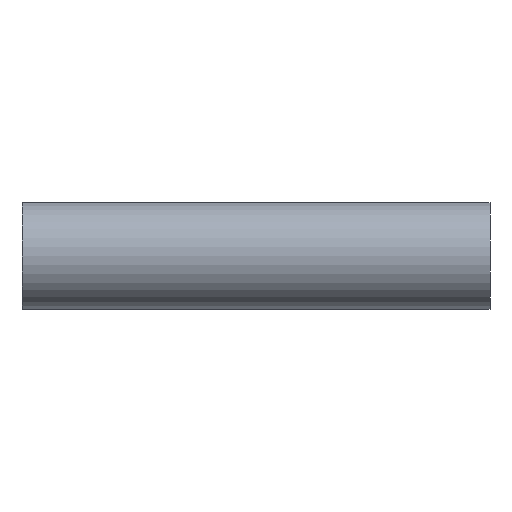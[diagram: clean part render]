
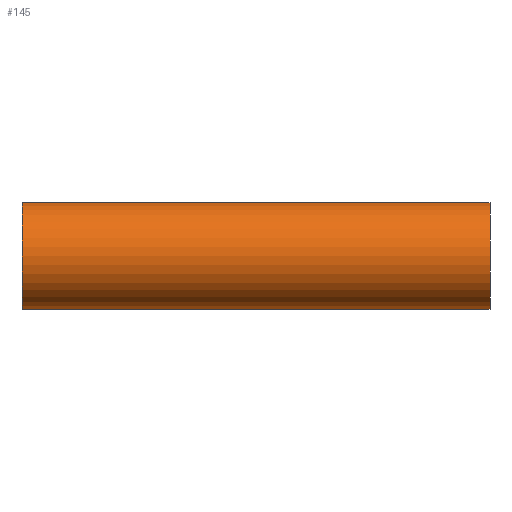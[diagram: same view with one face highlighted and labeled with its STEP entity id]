
A CAD part, front view. The second image highlights one B-rep face of the part: STEP entity #145.
In plain terms, the highlighted cylindrical face has radius 25.4 mm (diameter 50.8 mm), a partial arc.
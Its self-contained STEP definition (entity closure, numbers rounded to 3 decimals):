
#3 = ORIENTED_EDGE ( 'NONE', *, *, #259, .T. ) ;
#15 = DIRECTION ( 'NONE',  ( 0., 0., -1. ) ) ;
#62 = CARTESIAN_POINT ( 'NONE',  ( 0., 0., 25.4 ) ) ;
#75 = EDGE_CURVE ( 'NONE', #120, #280, #189, .T. ) ;
#80 = CARTESIAN_POINT ( 'NONE',  ( -41.4, 0., 25.4 ) ) ;
#90 = VECTOR ( 'NONE', #122, 1000. ) ;
#106 = CARTESIAN_POINT ( 'NONE',  ( -41.4, 0., 0. ) ) ;
#107 = AXIS2_PLACEMENT_3D ( 'NONE', #364, #385, #197 ) ;
#109 = DIRECTION ( 'NONE',  ( 1., 0., 0. ) ) ;
#112 = LINE ( 'NONE', #273, #411 ) ;
#120 = VERTEX_POINT ( 'NONE', #80 ) ;
#122 = DIRECTION ( 'NONE',  ( 1., 0., 0. ) ) ;
#123 = CARTESIAN_POINT ( 'NONE',  ( -41.4, 0., -25.4 ) ) ;
#127 = ORIENTED_EDGE ( 'NONE', *, *, #391, .F. ) ;
#139 = EDGE_CURVE ( 'NONE', #261, #199, #112, .T. ) ;
#140 = AXIS2_PLACEMENT_3D ( 'NONE', #106, #109, #15 ) ;
#145 = ADVANCED_FACE ( 'NONE', ( #258 ), #409, .T. ) ;
#160 = VECTOR ( 'NONE', #295, 1000. ) ;
#162 = ORIENTED_EDGE ( 'NONE', *, *, #75, .F. ) ;
#164 = CIRCLE ( 'NONE', #140, 25.4 ) ;
#184 = DIRECTION ( 'NONE',  ( 1., 0., 0. ) ) ;
#187 = AXIS2_PLACEMENT_3D ( 'NONE', #225, #184, #347 ) ;
#189 = LINE ( 'NONE', #244, #160 ) ;
#190 = ORIENTED_EDGE ( 'NONE', *, *, #405, .T. ) ;
#191 = VERTEX_POINT ( 'NONE', #433 ) ;
#197 = DIRECTION ( 'NONE',  ( 0., 0., -1. ) ) ;
#199 = VERTEX_POINT ( 'NONE', #431 ) ;
#202 = LINE ( 'NONE', #215, #412 ) ;
#215 = CARTESIAN_POINT ( 'NONE',  ( -41.4, 0., 25.4 ) ) ;
#225 = CARTESIAN_POINT ( 'NONE',  ( -41.4, 0., 0. ) ) ;
#236 = VERTEX_POINT ( 'NONE', #281 ) ;
#238 = DIRECTION ( 'NONE',  ( 1., 0., 0. ) ) ;
#242 = DIRECTION ( 'NONE',  ( 1., 0., 0. ) ) ;
#244 = CARTESIAN_POINT ( 'NONE',  ( -41.4, 0., 25.4 ) ) ;
#248 = CARTESIAN_POINT ( 'NONE',  ( 0., 0., -25.4 ) ) ;
#258 = FACE_OUTER_BOUND ( 'NONE', #270, .T. ) ;
#259 = EDGE_CURVE ( 'NONE', #199, #236, #436, .T. ) ;
#261 = VERTEX_POINT ( 'NONE', #248 ) ;
#270 = EDGE_LOOP ( 'NONE', ( #162, #351, #190, #305, #3, #127 ) ) ;
#273 = CARTESIAN_POINT ( 'NONE',  ( -41.4, 0., -25.4 ) ) ;
#280 = VERTEX_POINT ( 'NONE', #62 ) ;
#281 = CARTESIAN_POINT ( 'NONE',  ( 181., 0., 25.4 ) ) ;
#295 = DIRECTION ( 'NONE',  ( 1., 0., 0. ) ) ;
#305 = ORIENTED_EDGE ( 'NONE', *, *, #139, .T. ) ;
#306 = EDGE_CURVE ( 'NONE', #120, #191, #164, .T. ) ;
#335 = LINE ( 'NONE', #123, #90 ) ;
#347 = DIRECTION ( 'NONE',  ( 0., 0., -1. ) ) ;
#351 = ORIENTED_EDGE ( 'NONE', *, *, #306, .T. ) ;
#364 = CARTESIAN_POINT ( 'NONE',  ( 181., 0., 0. ) ) ;
#385 = DIRECTION ( 'NONE',  ( -1., 0., 0. ) ) ;
#391 = EDGE_CURVE ( 'NONE', #280, #236, #202, .T. ) ;
#405 = EDGE_CURVE ( 'NONE', #191, #261, #335, .T. ) ;
#409 = CYLINDRICAL_SURFACE ( 'NONE', #187, 25.4 ) ;
#411 = VECTOR ( 'NONE', #238, 1000. ) ;
#412 = VECTOR ( 'NONE', #242, 1000. ) ;
#431 = CARTESIAN_POINT ( 'NONE',  ( 181., 0., -25.4 ) ) ;
#433 = CARTESIAN_POINT ( 'NONE',  ( -41.4, 0., -25.4 ) ) ;
#436 = CIRCLE ( 'NONE', #107, 25.4 ) ;
